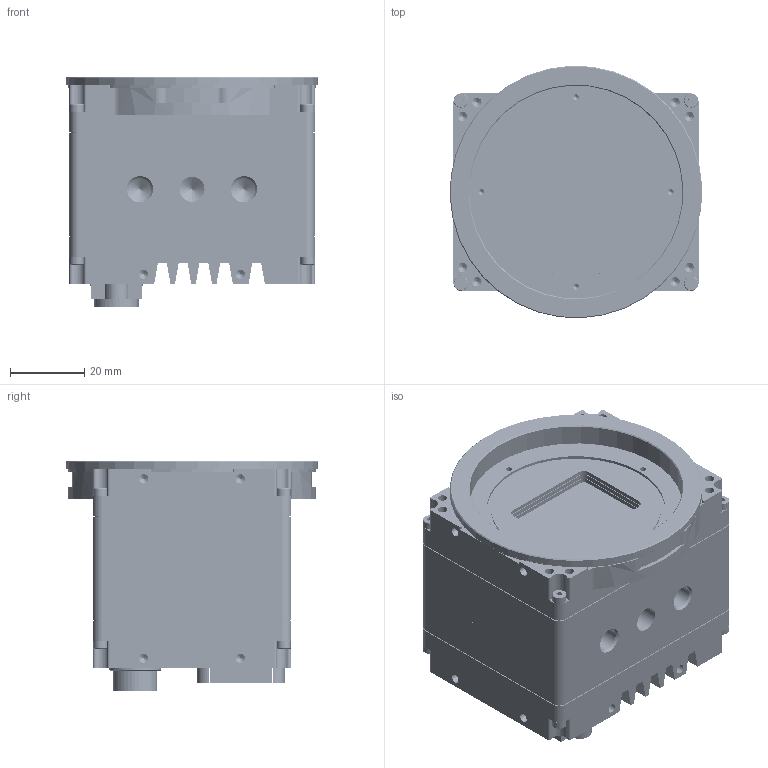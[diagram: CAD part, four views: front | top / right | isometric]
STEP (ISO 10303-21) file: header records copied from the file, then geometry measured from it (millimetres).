
FILE_DESCRIPTION (( 'STEP AP203' ), '1' );
FILE_NAME ('GT LF IMX M58-MOUNT MONO CAMERA - 2.STEP', '2019-11-08T15:49:15', ( '' ), ( '' ), 'SwSTEP 2.0', 'SolidWorks 2018', '' );
FILE_SCHEMA (( 'CONFIG_CONTROL_DESIGN' ));
Products named in the file (1): GT LF IMX M58-MOUNT MONO CAMERA - 2
Bounding box: 67.93 x 67.93 x 61.93 mm (x, y, z)
Volume: 89026.1 mm3; surface area: 79491.5 mm2
Topology: 340 solids, 340 shells, 22491 faces, 55553 edges, 36625 vertices
Faces by surface type: plane 16053, cylinder 4765, torus 996, bspline 363, sphere 158, cone 156
Entity records: 673417 total; most frequent: CARTESIAN_POINT 132017, DIRECTION 110734, ORIENTED_EDGE 110330, EDGE_CURVE 55165, LINE 42042, VECTOR 42042, VERTEX_POINT 36457, AXIS2_PLACEMENT_3D 34346
